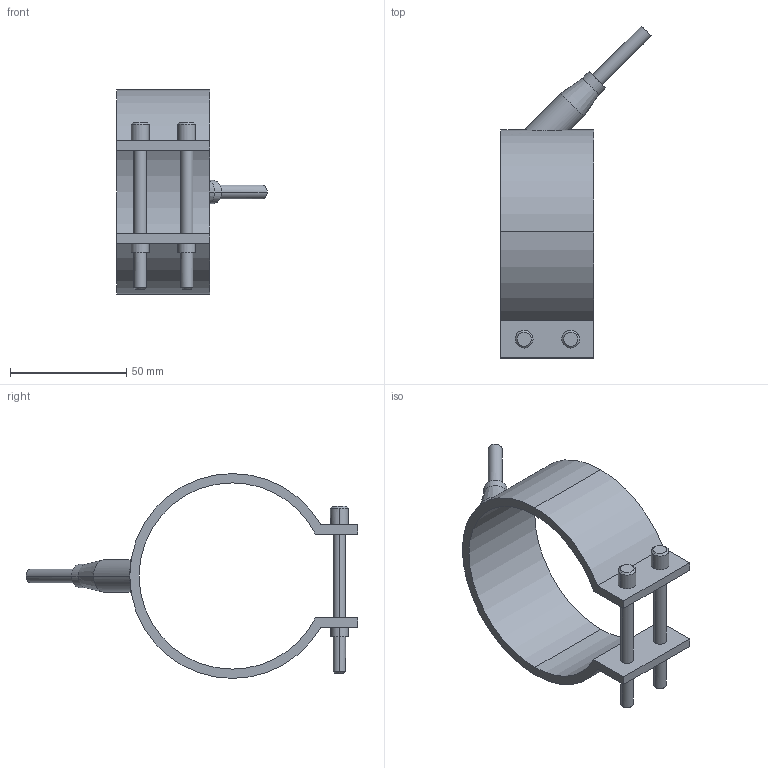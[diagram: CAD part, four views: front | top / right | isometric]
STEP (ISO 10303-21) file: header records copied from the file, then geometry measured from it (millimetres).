
FILE_DESCRIPTION(('CATIA V5 STEP Exchange'),'2;1');
FILE_NAME('C:\Users\Utente\Desktop\IO LAVORO\3D X SITO CF\X SITO\PLASTICA\RF1\29080040.stp','2021-03-29T18:09:16+00:00',('none'),('none'),'CATIA Version 5 Release 20 GA (IN-10)','CATIA V5 STEP AP203','none');
FILE_SCHEMA(('CONFIG_CONTROL_DESIGN'));
Length unit declared in the file: millimetre
Products named in the file (1): 29080040
Bounding box: 64.55 x 142.55 x 88 mm (x, y, z)
Volume: 49196.8 mm3; surface area: 26722 mm2
Topology: 1 solids, 1 shells, 54 faces, 123 edges, 79 vertices
Faces by surface type: cylinder 28, plane 16, cone 10
Entity records: 1740 total; most frequent: CARTESIAN_POINT 510, ORIENTED_EDGE 246, DIRECTION 212, EDGE_CURVE 123, AXIS2_PLACEMENT_3D 105, VERTEX_POINT 79, EDGE_LOOP 66, VECTOR 56
